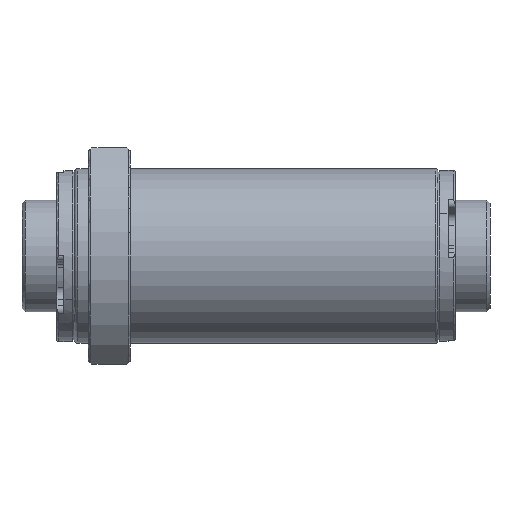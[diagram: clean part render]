
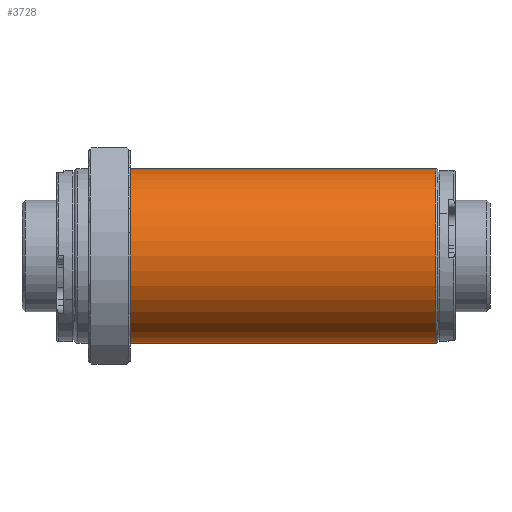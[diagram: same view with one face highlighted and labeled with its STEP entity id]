
A CAD part, front view. The second image highlights one B-rep face of the part: STEP entity #3728.
In plain terms, the highlighted cylindrical face has radius 25 mm (diameter 50 mm), a partial arc.
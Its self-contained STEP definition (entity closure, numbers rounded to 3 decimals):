
#497 = LINE ( 'NONE', #7414, #4197 ) ;
#638 = AXIS2_PLACEMENT_3D ( 'NONE', #1032, #3364, #5143 ) ;
#850 = VECTOR ( 'NONE', #1727, 1000. ) ;
#985 = ORIENTED_EDGE ( 'NONE', *, *, #4122, .F. ) ;
#1032 = CARTESIAN_POINT ( 'NONE',  ( 101.5, 0., 0. ) ) ;
#1396 = CYLINDRICAL_SURFACE ( 'NONE', #6845, 25. ) ;
#1581 = FACE_OUTER_BOUND ( 'NONE', #7171, .T. ) ;
#1690 = DIRECTION ( 'NONE',  ( -1., 0., 0. ) ) ;
#1727 = DIRECTION ( 'NONE',  ( -1., 0., 0. ) ) ;
#2108 = CARTESIAN_POINT ( 'NONE',  ( 14., 0., -25. ) ) ;
#2276 = LINE ( 'NONE', #2916, #850 ) ;
#2326 = CARTESIAN_POINT ( 'NONE',  ( 14., 0., 0. ) ) ;
#2327 = EDGE_CURVE ( 'NONE', #2526, #4544, #3164, .T. ) ;
#2513 = ORIENTED_EDGE ( 'NONE', *, *, #2327, .T. ) ;
#2526 = VERTEX_POINT ( 'NONE', #6540 ) ;
#2756 = VERTEX_POINT ( 'NONE', #2108 ) ;
#2916 = CARTESIAN_POINT ( 'NONE',  ( 50., 0., -25. ) ) ;
#3164 = CIRCLE ( 'NONE', #638, 25. ) ;
#3364 = DIRECTION ( 'NONE',  ( -1., 0., 0. ) ) ;
#3728 = ADVANCED_FACE ( 'NONE', ( #1581 ), #1396, .T. ) ;
#4122 = EDGE_CURVE ( 'NONE', #2526, #2756, #2276, .T. ) ;
#4197 = VECTOR ( 'NONE', #1690, 1000. ) ;
#4325 = DIRECTION ( 'NONE',  ( -1., 0., 0. ) ) ;
#4367 = AXIS2_PLACEMENT_3D ( 'NONE', #2326, #6993, #6401 ) ;
#4544 = VERTEX_POINT ( 'NONE', #5973 ) ;
#4879 = CARTESIAN_POINT ( 'NONE',  ( 14., 0., 25. ) ) ;
#4885 = DIRECTION ( 'NONE',  ( 0., 0., 1. ) ) ;
#4907 = CARTESIAN_POINT ( 'NONE',  ( 50., 0., 0. ) ) ;
#5143 = DIRECTION ( 'NONE',  ( 0., 0., -1. ) ) ;
#5348 = ORIENTED_EDGE ( 'NONE', *, *, #7070, .F. ) ;
#5973 = CARTESIAN_POINT ( 'NONE',  ( 101.5, 0., 25. ) ) ;
#6294 = ORIENTED_EDGE ( 'NONE', *, *, #6429, .T. ) ;
#6401 = DIRECTION ( 'NONE',  ( 0., 0., 1. ) ) ;
#6429 = EDGE_CURVE ( 'NONE', #4544, #6730, #497, .T. ) ;
#6540 = CARTESIAN_POINT ( 'NONE',  ( 101.5, 0., -25. ) ) ;
#6730 = VERTEX_POINT ( 'NONE', #4879 ) ;
#6777 = CIRCLE ( 'NONE', #4367, 25. ) ;
#6845 = AXIS2_PLACEMENT_3D ( 'NONE', #4907, #4325, #4885 ) ;
#6993 = DIRECTION ( 'NONE',  ( -1., 0., 0. ) ) ;
#7070 = EDGE_CURVE ( 'NONE', #2756, #6730, #6777, .T. ) ;
#7171 = EDGE_LOOP ( 'NONE', ( #985, #2513, #6294, #5348 ) ) ;
#7414 = CARTESIAN_POINT ( 'NONE',  ( 50., 0., 25. ) ) ;
